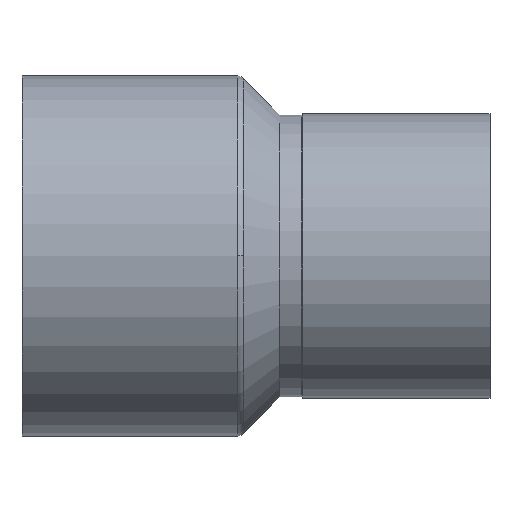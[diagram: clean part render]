
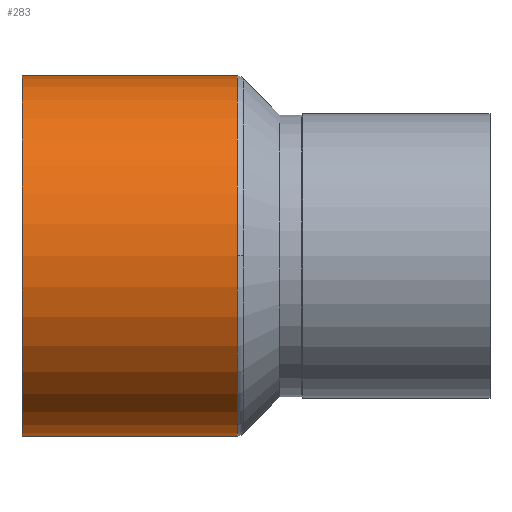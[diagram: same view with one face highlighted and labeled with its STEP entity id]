
A CAD part, top view. The second image highlights one B-rep face of the part: STEP entity #283.
In plain terms, the highlighted cylindrical face has radius 28.475 mm (diameter 56.95 mm), a partial arc.
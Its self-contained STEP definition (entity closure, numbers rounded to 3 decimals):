
#207=CARTESIAN_POINT('',(34.0,28.475,0.0));
#208=VERTEX_POINT('',#207);
#216=CARTESIAN_POINT('',(34.0,0.,28.475));
#217=VERTEX_POINT('',#216);
#218=CARTESIAN_POINT('',(34.0,0.0,0.0));
#219=DIRECTION('',(1.0,0.0,0.0));
#220=DIRECTION('',(0.0,1.0,0.0));
#221=AXIS2_PLACEMENT_3D('',#218,#219,#220);
#222=CIRCLE('',#221,28.475);
#223=EDGE_CURVE('',#208,#217,#222,.T.);
#243=CARTESIAN_POINT('',(17.0,0.0,0.0));
#244=DIRECTION('',(1.0,0.0,0.0));
#245=DIRECTION('',(0.0,1.0,0.0));
#246=AXIS2_PLACEMENT_3D('',#243,#244,#245);
#247=CYLINDRICAL_SURFACE('',#246,28.475);
#248=CARTESIAN_POINT('',(0.0,28.475,0.0));
#249=VERTEX_POINT('',#248);
#250=CARTESIAN_POINT('',(0.0,28.475,0.0));
#251=DIRECTION('',(1.0,0.0,0.0));
#252=VECTOR('',#251,34.0);
#253=LINE('',#250,#252);
#254=EDGE_CURVE('',#249,#208,#253,.T.);
#255=ORIENTED_EDGE('',*,*,#254,.F.);
#256=CARTESIAN_POINT('',(0.0,-28.475,0.));
#257=VERTEX_POINT('',#256);
#258=CARTESIAN_POINT('',(0.0,0.0,0.0));
#259=DIRECTION('',(1.0,0.0,0.0));
#260=DIRECTION('',(0.0,1.0,0.0));
#261=AXIS2_PLACEMENT_3D('',#258,#259,#260);
#262=CIRCLE('',#261,28.475);
#263=EDGE_CURVE('',#249,#257,#262,.T.);
#264=ORIENTED_EDGE('',*,*,#263,.T.);
#265=CARTESIAN_POINT('',(34.0,-28.475,0.));
#266=VERTEX_POINT('',#265);
#267=CARTESIAN_POINT('',(34.0,-28.475,0.));
#268=DIRECTION('',(-1.0,0.0,0.0));
#269=VECTOR('',#268,34.0);
#270=LINE('',#267,#269);
#271=EDGE_CURVE('',#266,#257,#270,.T.);
#272=ORIENTED_EDGE('',*,*,#271,.F.);
#273=CARTESIAN_POINT('',(34.0,0.0,0.0));
#274=DIRECTION('',(1.0,0.0,0.0));
#275=DIRECTION('',(0.0,1.0,0.0));
#276=AXIS2_PLACEMENT_3D('',#273,#274,#275);
#277=CIRCLE('',#276,28.475);
#278=EDGE_CURVE('',#217,#266,#277,.T.);
#279=ORIENTED_EDGE('',*,*,#278,.F.);
#280=ORIENTED_EDGE('',*,*,#223,.F.);
#281=EDGE_LOOP('',(#255,#264,#272,#279,#280));
#282=FACE_OUTER_BOUND('',#281,.T.);
#283=ADVANCED_FACE('',(#282),#247,.T.);
